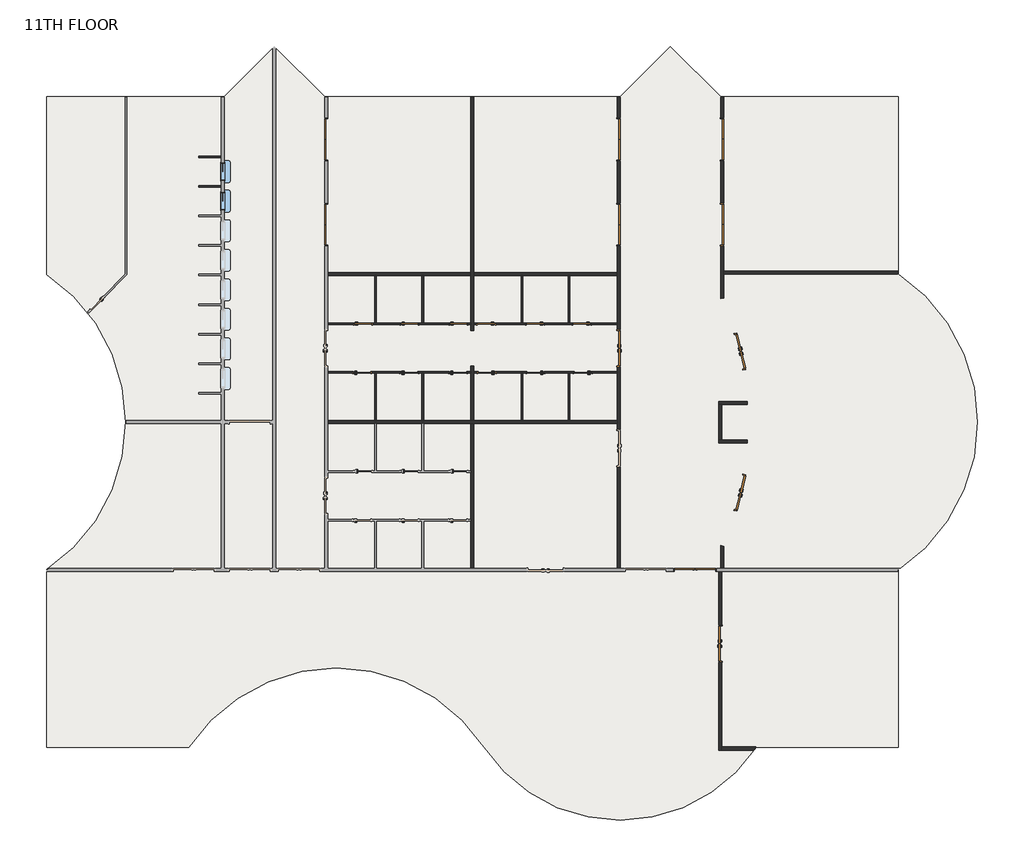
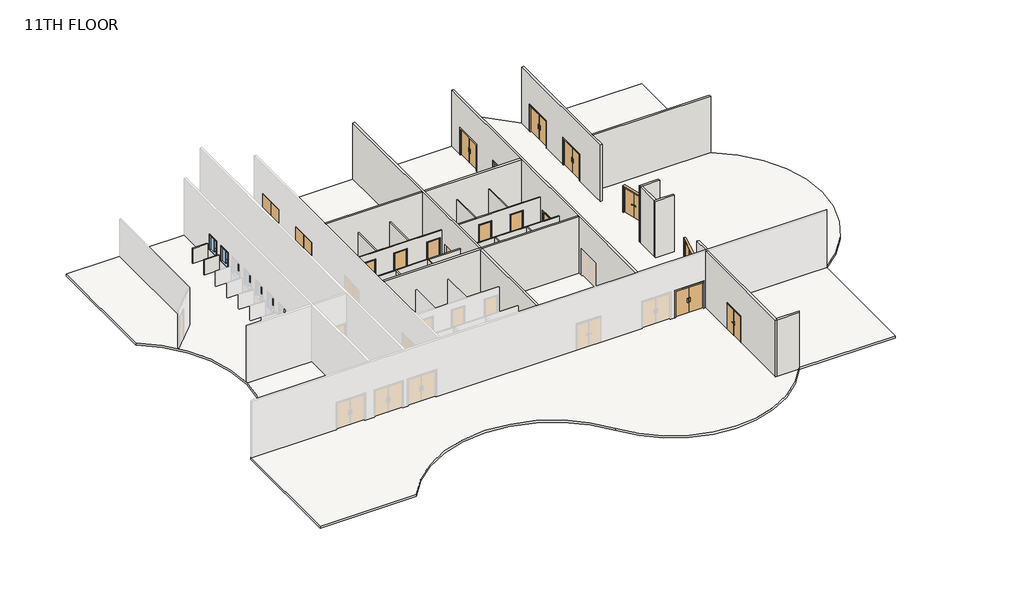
# One storey, part 2 of 2: 26 walls, 23 doors, 2 windows, 1 slab.
"""IFC4 building model written with IfcOpenShell, lengths in millimetres."""

from ifc_helpers import new_model, si_unit, point, frame, frame_2d, origin, place, context, project, spatial, polyline, circle_curve, trimmed, segment, composite_curve, outline, extrude, faceted_brep, transform, mapped, element, save
from ifc_brep_helpers import plane_surface, cylinder_surface, advanced_brep
from components import door_2f250f70, door_df8e76c5, door_0b13e4d9, door_b3a27a16, door_979b1b8c, door_f8b587be, pass_thru_4x3_19d81059

model = new_model("IFC4")

# Units and contexts
model_context = context("Model", 3, world=origin())
ifc_project = project(units=[si_unit("LENGTHUNIT", "METRE", prefix="MILLI")], contexts=[model_context])

# Site, building, storey
site = spatial("IfcSite", under=ifc_project)
building = spatial("IfcBuilding", under=site)
storey = spatial("IfcBuildingStorey", under=building, Name="11TH FLOOR", Elevation=50292.0)

# Doors
placement = place(None, origin())
door_shape = door_2f250f70(model_context)
element("IfcDoor", 1, ObjectType="Door-Passage-Double-Flush : 72\" x 82\"", at=placement, inside=storey, context=model_context, shape_type="MappedRepresentation", body=[
    mapped(door_shape, transform((35885.2621514, 20561.4429091, 50292.0), x_axis=(0.23975975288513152, -0.9708322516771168, 0.0), y_axis=(0.9708322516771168, 0.23975975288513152, 0.0), z_axis=(0.0, 0.0, 1.0))),
])
element("IfcDoor", 2, ObjectType="Door-Passage-Double-Flush : 72\" x 82\"", at=placement, inside=storey, context=model_context, shape_type="MappedRepresentation", body=[
    mapped(door_shape, transform((34887.5089577, 5494.3375, 50292.0), x_axis=(0.0, 1.0, 0.0), y_axis=(-1.0, 0.0, 0.0), z_axis=(0.0, 0.0, 1.0))),
])
door_2_shape = door_df8e76c5(model_context)
element("IfcDoor", 3, ObjectType="Door-Passage-Double-Flush : 72\" x 82\"", at=placement, inside=storey, context=model_context, shape_type="MappedRepresentation", body=[
    mapped(door_2_shape, transform((35886.7385063, 13277.3403388, 50292.0), x_axis=(0.23936619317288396, 0.9709293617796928, 0.0), y_axis=(-0.9709293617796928, 0.23936619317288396, 0.0), z_axis=(0.0, 0.0, 1.0))),
])
element("IfcDoor", 4, ObjectType="Door-Passage-Double-Flush : 72\" x 82\"", at=placement, inside=storey, context=model_context, shape_type="MappedRepresentation", body=[
    mapped(door_2_shape, transform((29628.0650257, 20729.575, 50292.0), x_axis=(0.0, 1.0, 0.0), y_axis=(-1.0, 0.0, 0.0), z_axis=(0.0, 0.0, 1.0))),
])
door_3_shape = door_0b13e4d9(model_context)
element("IfcDoor", 5, ObjectType="Door-Passage-Double-Flush-Dbl_Acting : 84\" x 84\"", at=placement, inside=storey, context=model_context, shape_type="MappedRepresentation", body=[
    mapped(door_3_shape, transform((33564.0300515, 9293.225, 50292.0), x_axis=(-1.0, 0.0, 0.0), y_axis=(0.0, -1.0, 0.0), z_axis=(0.0, 0.0, 1.0))),
])
element("IfcDoor", 6, ObjectType="Door-Passage-Double-Flush-Dbl_Acting : 84\" x 84\"", at=placement, inside=storey, context=model_context, shape_type="MappedRepresentation", body=[
    mapped(door_3_shape, transform((29628.0650257, 31499.175, 50292.0), x_axis=(0.0, 1.0, 0.0), y_axis=(-1.0, 0.0, 0.0), z_axis=(0.0, 0.0, 1.0))),
])
element("IfcDoor", 7, ObjectType="Door-Passage-Double-Flush-Dbl_Acting : 84\" x 84\"", at=placement, inside=storey, context=model_context, shape_type="MappedRepresentation", body=[
    mapped(door_3_shape, transform((29628.0650257, 27101.8, 50292.0), x_axis=(0.0, 1.0, 0.0), y_axis=(-1.0, 0.0, 0.0), z_axis=(0.0, 0.0, 1.0))),
])
door_4_shape = door_b3a27a16(model_context)
element("IfcDoor", 8, ObjectType="Door-Passage-Double-Flush-Dbl_Acting : 84\" x 84\"", at=placement, inside=storey, context=model_context, shape_type="MappedRepresentation", body=[
    mapped(door_4_shape, transform((14556.3400257, 31499.175, 50292.0), x_axis=(0.0, 1.0, 0.0), y_axis=(-1.0, 0.0, 0.0), z_axis=(0.0, 0.0, 1.0))),
])
element("IfcDoor", 9, ObjectType="Door-Passage-Double-Flush-Dbl_Acting : 84\" x 84\"", at=placement, inside=storey, context=model_context, shape_type="MappedRepresentation", body=[
    mapped(door_4_shape, transform((14556.3400257, 27101.8, 50292.0), x_axis=(0.0, 1.0, 0.0), y_axis=(-1.0, 0.0, 0.0), z_axis=(0.0, 0.0, 1.0))),
])
element("IfcDoor", 10, ObjectType="Door-Passage-Double-Flush-Dbl_Acting : 84\" x 84\"", at=placement, inside=storey, context=model_context, shape_type="MappedRepresentation", body=[
    mapped(door_4_shape, transform((34956.2675515, 31499.175, 50292.0), x_axis=(0.0, -1.0, 0.0), y_axis=(1.0, 0.0, 0.0), z_axis=(0.0, 0.0, 1.0))),
])
element("IfcDoor", 11, ObjectType="Door-Passage-Double-Flush-Dbl_Acting : 84\" x 84\"", at=placement, inside=storey, context=model_context, shape_type="MappedRepresentation", body=[
    mapped(door_4_shape, transform((34956.2675515, 27101.8, 50292.0), x_axis=(0.0, -1.0, 0.0), y_axis=(1.0, 0.0, 0.0), z_axis=(0.0, 0.0, 1.0))),
])
door_5_shape = door_979b1b8c(model_context)
element("IfcDoor", 12, ObjectType="Door-Passage-Single-Flush : 36\" x 96\"", at=placement, inside=storey, context=model_context, shape_type="MappedRepresentation", body=[
    mapped(door_5_shape, transform((16456.5775257, 21977.35, 50292.0), x_axis=(1.0, 0.0, 0.0), y_axis=(0.0, 1.0, 0.0), z_axis=(0.0, 0.0, 1.0))),
])
element("IfcDoor", 13, ObjectType="Door-Passage-Single-Flush : 36\" x 96\"", at=placement, inside=storey, context=model_context, shape_type="MappedRepresentation", body=[
    mapped(door_5_shape, transform((18855.2900257, 21977.35, 50292.0), x_axis=(1.0, 0.0, 0.0), y_axis=(0.0, 1.0, 0.0), z_axis=(0.0, 0.0, 1.0))),
])
element("IfcDoor", 14, ObjectType="Door-Passage-Single-Flush : 36\" x 96\"", at=placement, inside=storey, context=model_context, shape_type="MappedRepresentation", body=[
    mapped(door_5_shape, transform((21373.0650257, 21977.35, 50292.0), x_axis=(1.0, 0.0, 0.0), y_axis=(0.0, 1.0, 0.0), z_axis=(0.0, 0.0, 1.0))),
])
element("IfcDoor", 15, ObjectType="Door-Passage-Single-Flush : 36\" x 96\"", at=placement, inside=storey, context=model_context, shape_type="MappedRepresentation", body=[
    mapped(door_5_shape, transform((27778.6275257, 19481.8, 50292.0), x_axis=(-1.0, 0.0, 0.0), y_axis=(0.0, -1.0, 0.0), z_axis=(0.0, 0.0, 1.0))),
])
element("IfcDoor", 16, ObjectType="Door-Passage-Single-Flush : 36\" x 96\"", at=placement, inside=storey, context=model_context, shape_type="MappedRepresentation", body=[
    mapped(door_5_shape, transform((25348.1650257, 19481.8, 50292.0), x_axis=(-1.0, 0.0, 0.0), y_axis=(0.0, -1.0, 0.0), z_axis=(0.0, 0.0, 1.0))),
])
element("IfcDoor", 17, ObjectType="Door-Passage-Single-Flush : 36\" x 96\"", at=placement, inside=storey, context=model_context, shape_type="MappedRepresentation", body=[
    mapped(door_5_shape, transform((22830.3900257, 19481.8, 50292.0), x_axis=(-1.0, 0.0, 0.0), y_axis=(0.0, -1.0, 0.0), z_axis=(0.0, 0.0, 1.0))),
])
door_6_shape = door_f8b587be(model_context)
element("IfcDoor", 18, ObjectType="Door-Passage-Single-Flush : 36\" x 96\"", at=placement, inside=storey, context=model_context, shape_type="MappedRepresentation", body=[
    mapped(door_6_shape, transform((16405.7775257, 19481.8, 50292.0), x_axis=(1.0, 0.0, 0.0), y_axis=(0.0, 1.0, 0.0), z_axis=(0.0, 0.0, 1.0))),
])
element("IfcDoor", 19, ObjectType="Door-Passage-Single-Flush : 36\" x 96\"", at=placement, inside=storey, context=model_context, shape_type="MappedRepresentation", body=[
    mapped(door_6_shape, transform((18836.2400257, 19481.8, 50292.0), x_axis=(1.0, 0.0, 0.0), y_axis=(0.0, 1.0, 0.0), z_axis=(0.0, 0.0, 1.0))),
])
element("IfcDoor", 20, ObjectType="Door-Passage-Single-Flush : 36\" x 96\"", at=placement, inside=storey, context=model_context, shape_type="MappedRepresentation", body=[
    mapped(door_6_shape, transform((21354.0150257, 19481.8, 50292.0), x_axis=(1.0, 0.0, 0.0), y_axis=(0.0, 1.0, 0.0), z_axis=(0.0, 0.0, 1.0))),
])
element("IfcDoor", 21, ObjectType="Door-Passage-Single-Flush : 36\" x 96\"", at=placement, inside=storey, context=model_context, shape_type="MappedRepresentation", body=[
    mapped(door_6_shape, transform((27727.8275257, 21977.35, 50292.0), x_axis=(-1.0, 0.0, 0.0), y_axis=(0.0, -1.0, 0.0), z_axis=(0.0, 0.0, 1.0))),
])
element("IfcDoor", 22, ObjectType="Door-Passage-Single-Flush : 36\" x 96\"", at=placement, inside=storey, context=model_context, shape_type="MappedRepresentation", body=[
    mapped(door_6_shape, transform((25329.1150257, 21977.35, 50292.0), x_axis=(-1.0, 0.0, 0.0), y_axis=(0.0, -1.0, 0.0), z_axis=(0.0, 0.0, 1.0))),
])
element("IfcDoor", 23, ObjectType="Door-Passage-Single-Flush : 36\" x 96\"", at=placement, inside=storey, context=model_context, shape_type="MappedRepresentation", body=[
    mapped(door_6_shape, transform((22811.3400257, 21977.35, 50292.0), x_axis=(-1.0, 0.0, 0.0), y_axis=(0.0, -1.0, 0.0), z_axis=(0.0, 0.0, 1.0))),
])

# Slab
element("IfcSlab", 24, ObjectType="ARCHITECTURAL FINISH FLOOR", at=placement, inside=storey, context=model_context, shape_type="SweptSolid", body=[
    extrude(outline(composite_curve([segment(polyline([(9294.3144878, 33696.275), (11885.8887629, 36287.8492751), (14477.463038, 33696.275), (29706.9420135, 33696.275), (32298.5162886, 36287.8492751), (34890.0905637, 33696.275), (44041.5300515, 33696.275), (44041.5300515, 24546.3877275)]), True, "CONTINUOUS"), segment(trimmed(circle_curve(frame_2d((38974.293871, 16919.575)), 9156.7), [point((44041.5300515, 24546.3877275))], [point((44041.5300515, 9292.7622725))], False, "CARTESIAN"), True, "CONTINUOUS"), segment(polyline([(44041.5300515, 9292.7622725), (44041.5300515, 142.875), (36720.4425102, 142.875)]), True, "CONTINUOUS"), segment(trimmed(circle_curve(frame_2d((29712.2025257, 4799.7966199)), 8414.4130309), [point((36720.4425102, 142.875))], [point((22700.1916667, 148.5548109))], False, "CARTESIAN"), True, "CONTINUOUS"), segment(trimmed(circle_curve(frame_2d((15090.775, -4898.9611805)), 9131.3), [point((22700.1916667, 148.5548109))], [point((7477.593824, 142.875))], True, "CARTESIAN"), True, "CONTINUOUS"), segment(polyline([(7477.593824, 142.875), (142.875, 142.875), (142.875, 9306.393824)]), True, "CONTINUOUS"), segment(trimmed(circle_curve(frame_2d((-4898.9611805, 16919.575)), 9131.3), [point((142.875, 9306.393824))], [point((142.875, 24532.756176))], True, "CARTESIAN"), True, "CONTINUOUS"), segment(polyline([(142.875, 24532.756176), (142.875, 33696.275), (9294.3144878, 33696.275)]), True, "CONTINUOUS")], self_intersect=False)), frame((0.0, 0.0, 50139.6), z_axis=(0.0, 0.0, 1.0), x_axis=(1.0, 0.0, 0.0)), (0.0, 0.0, 1.0), 171.45),
])

# Walls
element("IfcWall", 25, ObjectType="SYR_INT_ONE_HOUR", at=placement, inside=storey, context=model_context, shape_type="SweptSolid", body=[
    extrude(outline(polyline([(17066.1775257, 22023.3875), (17066.1775257, 24461.7875), (17145.5525257, 24461.7875), (17145.5525257, 22023.3875), (17066.1775257, 22023.3875)])), frame((0.0, 0.0, 50292.0), z_axis=(0.0, 0.0, 1.0), x_axis=(1.0, 0.0, 0.0)), (0.0, 0.0, 1.0), 3048.0),
])
element("IfcWall", 26, ObjectType="SYR_INT_ONE_HOUR", at=placement, inside=storey, context=model_context, shape_type="SweptSolid", body=[
    extrude(outline(polyline([(19576.0150257, 19435.7625), (19576.0150257, 16997.3625), (19496.6400257, 16997.3625), (19496.6400257, 19435.7625), (19576.0150257, 19435.7625)])), frame((0.0, 0.0, 50292.0), z_axis=(0.0, 0.0, 1.0), x_axis=(1.0, 0.0, 0.0)), (0.0, 0.0, 1.0), 3048.0),
])
element("IfcWall", 27, ObjectType="SYR_INT_ONE_HOUR", at=placement, inside=storey, context=model_context, shape_type="Brep", body=[
    faceted_brep([(14627.7775257, 22023.3875, 53340.0), (17066.1775257, 22023.3875, 53340.0), (17145.5525257, 22023.3875, 53340.0), (19496.6400257, 22023.3875, 53340.0), (19576.0150257, 22023.3875, 53340.0), (22014.4150257, 22023.3875, 53340.0), (22014.4150257, 22023.3875, 50292.0), (21862.0150257, 22023.3875, 50292.0), (21862.0150257, 22023.3875, 52762.15), (20884.1150257, 22023.3875, 52762.15), (20884.1150257, 22023.3875, 50292.0), (19576.0150257, 22023.3875, 50292.0), (19496.6400257, 22023.3875, 50292.0), (19344.2400257, 22023.3875, 50292.0), (19344.2400257, 22023.3875, 52762.15), (18366.3400257, 22023.3875, 52762.15), (18366.3400257, 22023.3875, 50292.0), (17145.5525257, 22023.3875, 50292.0), (17066.1775257, 22023.3875, 50292.0), (16945.5275257, 22023.3875, 50292.0), (16945.5275257, 22023.3875, 52762.15), (15967.6275257, 22023.3875, 52762.15), (15967.6275257, 22023.3875, 50292.0), (14627.7775257, 22023.3875, 50292.0), (22014.4150257, 21944.0125, 53340.0), (14627.7775257, 21944.0125, 53340.0), (14627.7775257, 21944.0125, 50292.0), (15967.6275257, 21944.0125, 50292.0), (15967.6275257, 21944.0125, 52762.15), (16945.5275257, 21944.0125, 52762.15), (16945.5275257, 21944.0125, 50292.0), (18366.3400257, 21944.0125, 50292.0), (18366.3400257, 21944.0125, 52762.15), (19344.2400257, 21944.0125, 52762.15), (19344.2400257, 21944.0125, 50292.0), (20884.1150257, 21944.0125, 50292.0), (20884.1150257, 21944.0125, 52762.15), (21862.0150257, 21944.0125, 52762.15), (21862.0150257, 21944.0125, 50292.0), (22014.4150257, 21944.0125, 50292.0)], [[[0, 1, 2, 3, 4, 5, 6, 7, 8, 9, 10, 11, 12, 13, 14, 15, 16, 17, 18, 19, 20, 21, 22, 23]], [[24, 25, 26, 27, 28, 29, 30, 31, 32, 33, 34, 35, 36, 37, 38, 39]], [[23, 22, 27, 26]], [[30, 19, 18, 17, 16, 31]], [[34, 13, 12, 11, 10, 35]], [[6, 39, 38, 7]], [[5, 4, 3, 2, 1, 0, 25, 24]], [[29, 20, 19, 30]], [[20, 29, 28, 21]], [[21, 28, 27, 22]], [[14, 13, 34, 33]], [[15, 14, 33, 32]], [[16, 15, 32, 31]], [[37, 8, 7, 38]], [[8, 37, 36, 9]], [[9, 36, 35, 10]], [[0, 23, 26, 25]], [[6, 5, 24, 39]]]),
])
element("IfcWall", 28, ObjectType="SYR_INT_ONE_HOUR", at=placement, inside=storey, context=model_context, shape_type="Brep", body=[
    faceted_brep([(14627.7775257, 19515.1375, 53340.0), (22014.4150257, 19515.1375, 53340.0), (22014.4150257, 19515.1375, 50292.0), (21842.9650257, 19515.1375, 50292.0), (21842.9650257, 19515.1375, 52762.15), (20865.0650257, 19515.1375, 52762.15), (20865.0650257, 19515.1375, 50292.0), (19325.1900257, 19515.1375, 50292.0), (19325.1900257, 19515.1375, 52762.15), (18347.2900257, 19515.1375, 52762.15), (18347.2900257, 19515.1375, 50292.0), (16894.7275257, 19515.1375, 50292.0), (16894.7275257, 19515.1375, 52762.15), (15916.8275257, 19515.1375, 52762.15), (15916.8275257, 19515.1375, 50292.0), (14627.7775257, 19515.1375, 50292.0), (22014.4150257, 19435.7625, 53340.0), (19576.0150257, 19435.7625, 53340.0), (19496.6400257, 19435.7625, 53340.0), (17145.5525257, 19435.7625, 53340.0), (17066.1775257, 19435.7625, 53340.0), (14627.7775257, 19435.7625, 53340.0), (14627.7775257, 19435.7625, 50292.0), (15916.8275257, 19435.7625, 50292.0), (15916.8275257, 19435.7625, 52762.15), (16894.7275257, 19435.7625, 52762.15), (16894.7275257, 19435.7625, 50292.0), (17066.1775257, 19435.7625, 50292.0), (17145.5525257, 19435.7625, 50292.0), (18347.2900257, 19435.7625, 50292.0), (18347.2900257, 19435.7625, 52762.15), (19325.1900257, 19435.7625, 52762.15), (19325.1900257, 19435.7625, 50292.0), (19496.6400257, 19435.7625, 50292.0), (19576.0150257, 19435.7625, 50292.0), (20865.0650257, 19435.7625, 50292.0), (20865.0650257, 19435.7625, 52762.15), (21842.9650257, 19435.7625, 52762.15), (21842.9650257, 19435.7625, 50292.0), (22014.4150257, 19435.7625, 50292.0)], [[[0, 1, 2, 3, 4, 5, 6, 7, 8, 9, 10, 11, 12, 13, 14, 15]], [[16, 17, 18, 19, 20, 21, 22, 23, 24, 25, 26, 27, 28, 29, 30, 31, 32, 33, 34, 35, 36, 37, 38, 39]], [[15, 14, 23, 22]], [[26, 11, 10, 29, 28, 27]], [[32, 7, 6, 35, 34, 33]], [[2, 39, 38, 3]], [[1, 0, 21, 20, 19, 18, 17, 16]], [[25, 12, 11, 26]], [[12, 25, 24, 13]], [[13, 24, 23, 14]], [[31, 8, 7, 32]], [[8, 31, 30, 9]], [[9, 30, 29, 10]], [[37, 4, 3, 38]], [[4, 37, 36, 5]], [[5, 36, 35, 6]], [[0, 15, 22, 21]], [[2, 1, 16, 39]]]),
])
element("IfcWall", 29, ObjectType="SYR_INT_ONE_HOUR", at=placement, inside=storey, context=model_context, shape_type="SweptSolid", body=[
    extrude(outline(polyline([(17066.1775257, 16997.3625), (17066.1775257, 19435.7625), (17145.5525257, 19435.7625), (17145.5525257, 16997.3625), (17066.1775257, 16997.3625)])), frame((0.0, 0.0, 50292.0), z_axis=(0.0, 0.0, 1.0), x_axis=(1.0, 0.0, 0.0)), (0.0, 0.0, 1.0), 3048.0),
])
element("IfcWall", 30, ObjectType="SYR_INT_ONE_HOUR", at=placement, inside=storey, context=model_context, shape_type="SweptSolid", body=[
    extrude(outline(polyline([(19576.0150257, 24461.7875), (19576.0150257, 22023.3875), (19496.6400257, 22023.3875), (19496.6400257, 24461.7875), (19576.0150257, 24461.7875)])), frame((0.0, 0.0, 50292.0), z_axis=(0.0, 0.0, 1.0), x_axis=(1.0, 0.0, 0.0)), (0.0, 0.0, 1.0), 3048.0),
])
element("IfcWall", 31, ObjectType="SYR_INT_ONE_HOUR", at=placement, inside=storey, context=model_context, shape_type="SweptSolid", body=[
    extrude(outline(polyline([(7979.2710938, 29111.575), (9144.0, 29111.575), (9144.0, 29032.2), (7979.2710938, 29032.2), (7979.2710938, 29111.575)])), frame((0.0, 0.0, 50292.0), z_axis=(0.0, 0.0, 1.0), x_axis=(1.0, 0.0, 0.0)), (0.0, 0.0, 1.0), 1219.2),
])
element("IfcWall", 32, ObjectType="SYR_INT_ONE_HOUR", at=placement, inside=storey, context=model_context, shape_type="SweptSolid", body=[
    extrude(outline(polyline([(7979.2710938, 30635.575), (9144.0, 30635.575), (9144.0, 30556.2), (7979.2710938, 30556.2), (7979.2710938, 30635.575)])), frame((0.0, 0.0, 50292.0), z_axis=(0.0, 0.0, 1.0), x_axis=(1.0, 0.0, 0.0)), (0.0, 0.0, 1.0), 1219.2),
])
element("IfcWall", 33, ObjectType="SYR_INT_ONE_HOUR", at=placement, inside=storey, context=model_context, shape_type="SweptSolid", body=[
    extrude(outline(polyline([(27038.8525257, 22023.3875), (27038.8525257, 24461.7875), (27118.2275257, 24461.7875), (27118.2275257, 22023.3875), (27038.8525257, 22023.3875)])), frame((0.0, 0.0, 50292.0), z_axis=(0.0, 0.0, 1.0), x_axis=(1.0, 0.0, 0.0)), (0.0, 0.0, 1.0), 3048.0),
])
element("IfcWall", 34, ObjectType="SYR_INT_ONE_HOUR", at=placement, inside=storey, context=model_context, shape_type="SweptSolid", body=[
    extrude(outline(polyline([(24687.7650257, 19435.7625), (24687.7650257, 16997.3625), (24608.3900257, 16997.3625), (24608.3900257, 19435.7625), (24687.7650257, 19435.7625)])), frame((0.0, 0.0, 50292.0), z_axis=(0.0, 0.0, 1.0), x_axis=(1.0, 0.0, 0.0)), (0.0, 0.0, 1.0), 3048.0),
])
element("IfcWall", 35, ObjectType="SYR_INT_ONE_HOUR", at=placement, inside=storey, context=model_context, shape_type="Brep", body=[
    faceted_brep([(29556.6275257, 21944.0125, 53340.0), (22169.9900257, 21944.0125, 53340.0), (22169.9900257, 21944.0125, 50292.0), (22322.3900257, 21944.0125, 50292.0), (22322.3900257, 21944.0125, 52762.15), (23300.2900257, 21944.0125, 52762.15), (23300.2900257, 21944.0125, 50292.0), (24840.1650257, 21944.0125, 50292.0), (24840.1650257, 21944.0125, 52762.15), (25818.0650257, 21944.0125, 52762.15), (25818.0650257, 21944.0125, 50292.0), (27238.8775257, 21944.0125, 50292.0), (27238.8775257, 21944.0125, 52762.15), (28216.7775257, 21944.0125, 52762.15), (28216.7775257, 21944.0125, 50292.0), (29556.6275257, 21944.0125, 50292.0), (22169.9900257, 22023.3875, 53340.0), (24608.3900257, 22023.3875, 53340.0), (24687.7650257, 22023.3875, 53340.0), (27038.8525257, 22023.3875, 53340.0), (27118.2275257, 22023.3875, 53340.0), (29556.6275257, 22023.3875, 53340.0), (29556.6275257, 22023.3875, 50292.0), (28216.7775257, 22023.3875, 50292.0), (28216.7775257, 22023.3875, 52762.15), (27238.8775257, 22023.3875, 52762.15), (27238.8775257, 22023.3875, 50292.0), (27118.2275257, 22023.3875, 50292.0), (27038.8525257, 22023.3875, 50292.0), (25818.0650257, 22023.3875, 50292.0), (25818.0650257, 22023.3875, 52762.15), (24840.1650257, 22023.3875, 52762.15), (24840.1650257, 22023.3875, 50292.0), (24687.7650257, 22023.3875, 50292.0), (24608.3900257, 22023.3875, 50292.0), (23300.2900257, 22023.3875, 50292.0), (23300.2900257, 22023.3875, 52762.15), (22322.3900257, 22023.3875, 52762.15), (22322.3900257, 22023.3875, 50292.0), (22169.9900257, 22023.3875, 50292.0)], [[[0, 1, 2, 3, 4, 5, 6, 7, 8, 9, 10, 11, 12, 13, 14, 15]], [[16, 17, 18, 19, 20, 21, 22, 23, 24, 25, 26, 27, 28, 29, 30, 31, 32, 33, 34, 35, 36, 37, 38, 39]], [[15, 14, 23, 22]], [[26, 11, 10, 29, 28, 27]], [[32, 7, 6, 35, 34, 33]], [[2, 39, 38, 3]], [[1, 0, 21, 20, 19, 18, 17, 16]], [[25, 12, 11, 26]], [[12, 25, 24, 13]], [[13, 24, 23, 14]], [[8, 7, 32, 31]], [[9, 8, 31, 30]], [[10, 9, 30, 29]], [[37, 4, 3, 38]], [[4, 37, 36, 5]], [[5, 36, 35, 6]], [[0, 15, 22, 21]], [[2, 1, 16, 39]]]),
])
element("IfcWall", 36, ObjectType="SYR_INT_ONE_HOUR", at=placement, inside=storey, context=model_context, shape_type="Brep", body=[
    faceted_brep([(29556.6275257, 19435.7625, 53340.0), (27118.2275257, 19435.7625, 53340.0), (27038.8525257, 19435.7625, 53340.0), (24687.7650257, 19435.7625, 53340.0), (24608.3900257, 19435.7625, 53340.0), (22169.9900257, 19435.7625, 53340.0), (22169.9900257, 19435.7625, 50292.0), (22341.4400257, 19435.7625, 50292.0), (22341.4400257, 19435.7625, 52762.15), (23319.3400257, 19435.7625, 52762.15), (23319.3400257, 19435.7625, 50292.0), (24608.3900257, 19435.7625, 50292.0), (24687.7650257, 19435.7625, 50292.0), (24859.2150257, 19435.7625, 50292.0), (24859.2150257, 19435.7625, 52762.15), (25837.1150257, 19435.7625, 52762.15), (25837.1150257, 19435.7625, 50292.0), (27038.8525257, 19435.7625, 50292.0), (27118.2275257, 19435.7625, 50292.0), (27289.6775257, 19435.7625, 50292.0), (27289.6775257, 19435.7625, 52762.15), (28267.5775257, 19435.7625, 52762.15), (28267.5775257, 19435.7625, 50292.0), (29556.6275257, 19435.7625, 50292.0), (22169.9900257, 19515.1375, 53340.0), (29556.6275257, 19515.1375, 53340.0), (29556.6275257, 19515.1375, 50292.0), (28267.5775257, 19515.1375, 50292.0), (28267.5775257, 19515.1375, 52762.15), (27289.6775257, 19515.1375, 52762.15), (27289.6775257, 19515.1375, 50292.0), (25837.1150257, 19515.1375, 50292.0), (25837.1150257, 19515.1375, 52762.15), (24859.2150257, 19515.1375, 52762.15), (24859.2150257, 19515.1375, 50292.0), (23319.3400257, 19515.1375, 50292.0), (23319.3400257, 19515.1375, 52762.15), (22341.4400257, 19515.1375, 52762.15), (22341.4400257, 19515.1375, 50292.0), (22169.9900257, 19515.1375, 50292.0)], [[[0, 1, 2, 3, 4, 5, 6, 7, 8, 9, 10, 11, 12, 13, 14, 15, 16, 17, 18, 19, 20, 21, 22, 23]], [[24, 25, 26, 27, 28, 29, 30, 31, 32, 33, 34, 35, 36, 37, 38, 39]], [[23, 22, 27, 26]], [[30, 19, 18, 17, 16, 31]], [[34, 13, 12, 11, 10, 35]], [[6, 39, 38, 7]], [[5, 4, 3, 2, 1, 0, 25, 24]], [[29, 20, 19, 30]], [[20, 29, 28, 21]], [[21, 28, 27, 22]], [[33, 14, 13, 34]], [[14, 33, 32, 15]], [[15, 32, 31, 16]], [[37, 8, 7, 38]], [[8, 37, 36, 9]], [[9, 36, 35, 10]], [[0, 23, 26, 25]], [[6, 5, 24, 39]]]),
])
element("IfcWall", 37, ObjectType="SYR_INT_ONE_HOUR", at=placement, inside=storey, context=model_context, shape_type="SweptSolid", body=[
    extrude(outline(polyline([(27038.8525257, 16997.3625), (27038.8525257, 19435.7625), (27118.2275257, 19435.7625), (27118.2275257, 16997.3625), (27038.8525257, 16997.3625)])), frame((0.0, 0.0, 50292.0), z_axis=(0.0, 0.0, 1.0), x_axis=(1.0, 0.0, 0.0)), (0.0, 0.0, 1.0), 3048.0),
])
element("IfcWall", 38, ObjectType="SYR_INT_ONE_HOUR", at=placement, inside=storey, context=model_context, shape_type="SweptSolid", body=[
    extrude(outline(polyline([(24687.7650257, 24461.7875), (24687.7650257, 22023.3875), (24608.3900257, 22023.3875), (24608.3900257, 24461.7875), (24687.7650257, 24461.7875)])), frame((0.0, 0.0, 50292.0), z_axis=(0.0, 0.0, 1.0), x_axis=(1.0, 0.0, 0.0)), (0.0, 0.0, 1.0), 3048.0),
])
element("IfcWall", 39, ObjectType="SYR_INT_TWO_HOUR", at=placement, inside=storey, context=model_context, shape_type="Brep", body=[
    faceted_brep([(34803.3714577, 0.0, 54864.0), (34803.3714577, 9221.7875, 54864.0), (34803.3714577, 9221.7875, 50292.0), (34803.3714577, 6459.5375, 50292.0), (34803.3714577, 6459.5375, 52476.4), (34803.3714577, 4529.1375, 52476.4), (34803.3714577, 4529.1375, 50292.0), (34803.3714577, 0.0, 50292.0), (34958.9464577, 9221.7875, 54864.0), (34958.9464577, 155.575, 54864.0), (34958.9464577, 0.0, 54864.0), (34958.9464577, 0.0, 50292.0), (34958.9464577, 155.575, 50292.0), (34958.9464577, 4529.1375, 50292.0), (34958.9464577, 4529.1375, 52476.4), (34958.9464577, 6459.5375, 52476.4), (34958.9464577, 6459.5375, 50292.0), (34958.9464577, 9221.7875, 50292.0)], [[[0, 1, 2, 3, 4, 5, 6, 7]], [[8, 9, 10, 11, 12, 13, 14, 15, 16, 17]], [[2, 17, 16, 3]], [[11, 7, 6, 13, 12]], [[1, 0, 10, 9, 8]], [[2, 1, 8, 17]], [[0, 7, 11, 10]], [[15, 4, 3, 16]], [[4, 15, 14, 5]], [[5, 14, 13, 6]]]),
])
element("IfcWall", 40, ObjectType="SYR_INT_TWO_HOUR", at=placement, inside=storey, context=model_context, shape_type="SweptSolid", body=[
    extrude(outline(composite_curve([segment(polyline([(36607.9065696, 0.0), (34958.9464577, 0.0), (34958.9464577, 155.575), (36713.6300515, 155.575)]), True, "CONTINUOUS"), segment(trimmed(circle_curve(frame_2d((29712.2025257, 4799.7966199)), 8401.7130309), [point((36713.6300515, 155.575))], [point((36607.9065696, 0.0))], False, "CARTESIAN"), True, "CONTINUOUS")], self_intersect=False)), frame((0.0, 0.0, 50292.0), z_axis=(0.0, 0.0, 1.0), x_axis=(1.0, 0.0, 0.0)), (0.0, 0.0, 1.0), 4572.0),
])
element("IfcWall", 41, ObjectType="SYR_INT_TWO_HOUR", at=placement, inside=storey, context=model_context, shape_type="Brep", body=[
    faceted_brep([(29556.6275257, 9377.3625, 54864.0), (29556.6275257, 16841.7875, 54864.0), (29556.6275257, 16997.3625, 54864.0), (29556.6275257, 24461.7875, 54864.0), (29556.6275257, 24617.3625, 54864.0), (29556.6275257, 33683.575, 54864.0), (29556.6275257, 33683.575, 50292.0), (29556.6275257, 32616.775, 50292.0), (29556.6275257, 32616.775, 52527.2), (29556.6275257, 30381.575, 52527.2), (29556.6275257, 30381.575, 50292.0), (29556.6275257, 28219.4, 50292.0), (29556.6275257, 28219.4, 52527.2), (29556.6275257, 25984.2, 52527.2), (29556.6275257, 25984.2, 50292.0), (29556.6275257, 24617.3625, 50292.0), (29556.6275257, 24461.7875, 50292.0), (29556.6275257, 22023.3875, 50292.0), (29556.6275257, 21944.0125, 50292.0), (29556.6275257, 21694.775, 50292.0), (29556.6275257, 21694.775, 52476.4), (29556.6275257, 19764.375, 52476.4), (29556.6275257, 19764.375, 50292.0), (29556.6275257, 19515.1375, 50292.0), (29556.6275257, 19435.7625, 50292.0), (29556.6275257, 16997.3625, 50292.0), (29556.6275257, 16841.7875, 50292.0), (29556.6275257, 16536.9875, 50292.0), (29556.6275257, 16536.9875, 52476.4), (29556.6275257, 14606.5875, 52476.4), (29556.6275257, 14606.5875, 50292.0), (29556.6275257, 9377.3625, 50292.0), (29712.2025257, 33683.575, 54864.0), (29712.2025257, 9377.3625, 54864.0), (29712.2025257, 9377.3625, 50292.0), (29712.2025257, 14606.5875, 50292.0), (29712.2025257, 14606.5875, 52476.4), (29712.2025257, 16536.9875, 52476.4), (29712.2025257, 16536.9875, 50292.0), (29712.2025257, 19764.375, 50292.0), (29712.2025257, 19764.375, 52476.4), (29712.2025257, 21694.775, 52476.4), (29712.2025257, 21694.775, 50292.0), (29712.2025257, 25984.2, 50292.0), (29712.2025257, 25984.2, 52527.2), (29712.2025257, 28219.4, 52527.2), (29712.2025257, 28219.4, 50292.0), (29712.2025257, 30381.575, 50292.0), (29712.2025257, 30381.575, 52527.2), (29712.2025257, 32616.775, 52527.2), (29712.2025257, 32616.775, 50292.0), (29712.2025257, 33683.575, 50292.0)], [[[0, 1, 2, 3, 4, 5, 6, 7, 8, 9, 10, 11, 12, 13, 14, 15, 16, 17, 18, 19, 20, 21, 22, 23, 24, 25, 26, 27, 28, 29, 30, 31]], [[32, 33, 34, 35, 36, 37, 38, 39, 40, 41, 42, 43, 44, 45, 46, 47, 48, 49, 50, 51]], [[34, 31, 30, 35]], [[42, 19, 18, 17, 16, 15, 14, 43]], [[22, 39, 38, 27, 26, 25, 24, 23]], [[46, 11, 10, 47]], [[7, 6, 51, 50]], [[5, 4, 3, 2, 1, 0, 33, 32]], [[0, 31, 34, 33]], [[41, 20, 19, 42]], [[20, 41, 40, 21]], [[21, 40, 39, 22]], [[45, 12, 11, 46]], [[12, 45, 44, 13]], [[13, 44, 43, 14]], [[49, 8, 7, 50]], [[8, 49, 48, 9]], [[9, 48, 47, 10]], [[29, 36, 35, 30]], [[36, 29, 28, 37]], [[37, 28, 27, 38]], [[6, 5, 32, 51]]]),
])
element("IfcWall", 42, ObjectType="SYR_INT_TWO_HOUR", at=placement, inside=storey, context=model_context, shape_type="Brep", body=[
    faceted_brep([(34884.8300515, 23286.7810764, 54864.0), (34884.8300515, 33683.575, 54864.0), (34884.8300515, 33683.575, 50292.0), (34884.8300515, 32616.775, 50292.0), (34884.8300515, 32616.775, 52527.2), (34884.8300515, 30381.575, 52527.2), (34884.8300515, 30381.575, 50292.0), (34884.8300515, 28219.4, 50292.0), (34884.8300515, 28219.4, 52527.2), (34884.8300515, 25984.2, 52527.2), (34884.8300515, 25984.2, 50292.0), (34884.8300515, 23286.7810764, 50292.0), (35040.4050515, 33683.575, 54864.0), (35040.4050515, 24695.15, 54864.0), (35040.4050515, 24539.575, 54864.0), (35040.4050515, 23320.9573614, 54864.0), (35040.4050515, 23320.9573614, 50292.0), (35040.4050515, 24539.575, 50292.0), (35040.4050515, 24695.15, 50292.0), (35040.4050515, 25984.2, 50292.0), (35040.4050515, 25984.2, 52527.2), (35040.4050515, 28219.4, 52527.2), (35040.4050515, 28219.4, 50292.0), (35040.4050515, 30381.575, 50292.0), (35040.4050515, 30381.575, 52527.2), (35040.4050515, 32616.775, 52527.2), (35040.4050515, 32616.775, 50292.0), (35040.4050515, 33683.575, 50292.0)], [[[0, 1, 2, 3, 4, 5, 6, 7, 8, 9, 10, 11]], [[12, 13, 14, 15, 16, 17, 18, 19, 20, 21, 22, 23, 24, 25, 26, 27]], [[16, 11, 10, 19, 18, 17]], [[3, 2, 27, 26]], [[6, 23, 22, 7]], [[1, 0, 15, 14, 13, 12]], [[0, 11, 16, 15]], [[5, 24, 23, 6]], [[24, 5, 4, 25]], [[25, 4, 3, 26]], [[9, 20, 19, 10]], [[20, 9, 8, 21]], [[21, 8, 7, 22]], [[2, 1, 12, 27]]]),
])
element("IfcWall", 43, ObjectType="SYR_INT_TWO_HOUR", at=placement, inside=storey, context=model_context, shape_type="Brep", body=[
    faceted_brep([(14627.7775257, 16841.7875, 50292.0), (17066.1775257, 16841.7875, 50292.0), (17145.5525257, 16841.7875, 50292.0), (19496.6400257, 16841.7875, 50292.0), (19576.0150257, 16841.7875, 50292.0), (22014.4150257, 16841.7875, 50292.0), (22169.9900257, 16841.7875, 50292.0), (29556.6275257, 16841.7875, 50292.0), (29556.6275257, 16841.7875, 54864.0), (22169.9900257, 16841.7875, 54864.0), (22014.4150257, 16841.7875, 54864.0), (14627.7775257, 16841.7875, 54864.0), (14627.7775257, 16997.3625, 50292.0), (14627.7775257, 16997.3625, 54864.0), (22014.4150257, 16997.3625, 54864.0), (22169.9900257, 16997.3625, 54864.0), (29556.6275257, 16997.3625, 54864.0), (29556.6275257, 16997.3625, 50292.0), (27118.2275257, 16997.3625, 50292.0), (27038.8525257, 16997.3625, 50292.0), (24687.7650257, 16997.3625, 50292.0), (24608.3900257, 16997.3625, 50292.0), (22169.9900257, 16997.3625, 50292.0), (22014.4150257, 16997.3625, 50292.0), (19576.0150257, 16997.3625, 50292.0), (19496.6400257, 16997.3625, 50292.0), (17145.5525257, 16997.3625, 50292.0), (17066.1775257, 16997.3625, 50292.0)], [[[0, 1, 2, 3, 4, 5, 6, 7, 8, 9, 10, 11]], [[12, 13, 14, 15, 16, 17, 18, 19, 20, 21, 22, 23, 24, 25, 26, 27]], [[7, 6, 5, 4, 3, 2, 1, 0, 12, 27, 26, 25, 24, 23, 22, 21, 20, 19, 18, 17]], [[11, 10, 9, 8, 16, 15, 14, 13]], [[0, 11, 13, 12]], [[8, 7, 17, 16]]]),
])
element("IfcWall", 44, ObjectType="SYR_INT_TWO_HOUR", at=placement, inside=storey, context=model_context, shape_type="Brep", body=[
    faceted_brep([(22169.9900257, 9377.3625, 54864.0), (22169.9900257, 9377.3625, 50292.0), (22169.9900257, 16841.7875, 50292.0), (22169.9900257, 16841.7875, 54864.0), (22014.4150257, 9377.3625, 50292.0), (22014.4150257, 9377.3625, 54864.0), (22014.4150257, 16841.7875, 54864.0), (22014.4150257, 16841.7875, 50292.0), (22014.4150257, 14403.3875, 50292.0), (22014.4150257, 14324.0125, 50292.0), (22014.4150257, 11895.1375, 50292.0), (22014.4150257, 11815.7625, 50292.0)], [[[0, 1, 2, 3]], [[4, 5, 6, 7, 8, 9, 10, 11]], [[1, 4, 11, 10, 9, 8, 7, 2]], [[5, 0, 3, 6]], [[1, 0, 5, 4]], [[3, 2, 7, 6]]]),
    faceted_brep([(22169.9900257, 19815.175, 50292.0), (22169.9900257, 19815.175, 52425.6), (22169.9900257, 21643.975, 52425.6), (22169.9900257, 21643.975, 50292.0), (22169.9900257, 21944.0125, 50292.0), (22169.9900257, 22023.3875, 50292.0), (22169.9900257, 24461.7875, 50292.0), (22169.9900257, 24617.3625, 50292.0), (22169.9900257, 33683.575, 50292.0), (22169.9900257, 33683.575, 54864.0), (22169.9900257, 24617.3625, 54864.0), (22169.9900257, 24461.7875, 54864.0), (22169.9900257, 16997.3625, 54864.0), (22169.9900257, 16997.3625, 50292.0), (22169.9900257, 19435.7625, 50292.0), (22169.9900257, 19515.1375, 50292.0), (22014.4150257, 19815.175, 52425.6), (22014.4150257, 19815.175, 50292.0), (22014.4150257, 19515.1375, 50292.0), (22014.4150257, 19435.7625, 50292.0), (22014.4150257, 16997.3625, 50292.0), (22014.4150257, 16997.3625, 54864.0), (22014.4150257, 24461.7875, 54864.0), (22014.4150257, 24617.3625, 54864.0), (22014.4150257, 33683.575, 54864.0), (22014.4150257, 33683.575, 50292.0), (22014.4150257, 24617.3625, 50292.0), (22014.4150257, 24461.7875, 50292.0), (22014.4150257, 22023.3875, 50292.0), (22014.4150257, 21944.0125, 50292.0), (22014.4150257, 21643.975, 50292.0), (22014.4150257, 21643.975, 52425.6)], [[[0, 1, 2, 3, 4, 5, 6, 7, 8, 9, 10, 11, 12, 13, 14, 15]], [[16, 17, 18, 19, 20, 21, 22, 23, 24, 25, 26, 27, 28, 29, 30, 31]], [[17, 0, 15, 14, 13, 20, 19, 18]], [[3, 30, 29, 28, 27, 26, 25, 8, 7, 6, 5, 4]], [[9, 24, 23, 22, 21, 12, 11, 10]], [[13, 12, 21, 20]], [[17, 16, 1, 0]], [[31, 30, 3, 2]], [[16, 31, 2, 1]], [[9, 8, 25, 24]]]),
])
element("IfcWall", 45, ObjectType="SYR_INT_TWO_HOUR", at=placement, inside=storey, context=model_context, shape_type="Brep", body=[
    faceted_brep([(14627.7775257, 24461.7875, 54864.0), (14627.7775257, 24461.7875, 50292.0), (17066.1775257, 24461.7875, 50292.0), (17145.5525257, 24461.7875, 50292.0), (19496.6400257, 24461.7875, 50292.0), (19576.0150257, 24461.7875, 50292.0), (22014.4150257, 24461.7875, 50292.0), (22014.4150257, 24461.7875, 54864.0), (14627.7775257, 24617.3625, 50292.0), (14627.7775257, 24617.3625, 54864.0), (22014.4150257, 24617.3625, 54864.0), (22014.4150257, 24617.3625, 50292.0)], [[[0, 1, 2, 3, 4, 5, 6, 7]], [[8, 9, 10, 11]], [[1, 8, 11, 6, 5, 4, 3, 2]], [[9, 0, 7, 10]], [[1, 0, 9, 8]], [[7, 6, 11, 10]]]),
    faceted_brep([(29556.6275257, 24461.7875, 50292.0), (29556.6275257, 24461.7875, 54864.0), (22169.9900257, 24461.7875, 54864.0), (22169.9900257, 24461.7875, 50292.0), (24608.3900257, 24461.7875, 50292.0), (24687.7650257, 24461.7875, 50292.0), (27038.8525257, 24461.7875, 50292.0), (27118.2275257, 24461.7875, 50292.0), (29556.6275257, 24617.3625, 54864.0), (29556.6275257, 24617.3625, 50292.0), (22169.9900257, 24617.3625, 50292.0), (22169.9900257, 24617.3625, 54864.0)], [[[0, 1, 2, 3, 4, 5, 6, 7]], [[8, 9, 10, 11]], [[9, 0, 7, 6, 5, 4, 3, 10]], [[1, 8, 11, 2]], [[1, 0, 9, 8]], [[3, 2, 11, 10]]]),
])
element("IfcWall", 46, ObjectType="SYR_INT_TWO_HOUR", at=placement, inside=storey, context=model_context, shape_type="SweptSolid", body=[
    extrude(outline(polyline([(35040.4050515, 24695.15), (44028.8300515, 24695.15), (44028.8300515, 24539.575), (35040.4050515, 24539.575), (35040.4050515, 24695.15)])), frame((0.0, 0.0, 50292.0), z_axis=(0.0, 0.0, 1.0), x_axis=(1.0, 0.0, 0.0)), (0.0, 0.0, 1.0), 4572.0),
])
element("IfcWall", 47, ObjectType="SYR_INT_TWO_HOUR", at=placement, inside=storey, context=model_context, shape_type="SweptSolid", body=[
    extrude(outline(polyline([(34884.8300515, 9377.3625), (34884.8300515, 10546.0189236), (35040.4050515, 10511.8426386), (35040.4050515, 9377.3625), (34884.8300515, 9377.3625)])), frame((0.0, 0.0, 50292.0), z_axis=(0.0, 0.0, 1.0), x_axis=(1.0, 0.0, 0.0)), (0.0, 0.0, 1.0), 4572.0),
])
element("IfcWall", 48, ObjectType="SYR_INT_TWO_HOUR", at=placement, inside=storey, context=model_context, shape_type="AdvancedBrep", body=[
    advanced_brep(
    [(36260.4137436, 16002.0, 50292.0), (34939.3011452, 16002.0, 50292.0), (34783.7261452, 16002.0, 50292.0), (34783.7261452, 16002.0, 54864.0), (34939.3011452, 16002.0, 54864.0), (36260.4137436, 16002.0, 54864.0), (36250.2111967, 15846.425, 50292.0), (36250.2111967, 15846.425, 54864.0), (34783.7261452, 15846.425, 54864.0), (34783.7261452, 15846.425, 50292.0)],
    [
        (0, 1),
        (1, 2),
        (2, 3),
        (3, 4),
        (4, 5),
        (5, 0),
        (6, 7),
        (7, 8),
        (8, 9),
        (9, 6),
        (0, 6, circle_curve(frame((21125.7990959, 16916.4, 50292.0), z_axis=(0.0, 0.0, -1.0), x_axis=(1.0, 0.0, 0.0)), 15162.2125)),
        (9, 2),
        (3, 8),
        (7, 5, circle_curve(frame((21125.7990959, 16916.4, 54864.0), z_axis=(0.0, 0.0, 1.0), x_axis=(1.0, 0.0, 0.0)), 15162.2125)),
    ],
    [
        plane_surface(frame((36365.7990959, 16002.0, 50292.0), z_axis=(0.0, 1.0, 0.0), x_axis=(-1.0, 0.0, 0.0))),
        plane_surface(frame((36365.7990959, 15846.425, 50292.0), z_axis=(0.0, -1.0, 0.0), x_axis=(1.0, 0.0, 0.0))),
        plane_surface(frame((36333.467029, 16002.0, 50292.0), z_axis=(0.0, 0.0, -1.0), x_axis=(0.0, -1.0, 0.0))),
        plane_surface(frame((34861.5136452, 16002.0, 54864.0), z_axis=(0.0, 0.0, 1.0), x_axis=(0.0, -1.0, 0.0))),
        cylinder_surface(frame((21125.7990959, 16916.4, 50292.0), z_axis=(0.0, 0.0, -1.0), x_axis=(1.0, 0.0, 0.0)), 15162.2125),
        plane_surface(frame((34783.7261452, 17087.0102762, 50292.0), z_axis=(-1.0, 0.0, 0.0), x_axis=(0.0, -1.0, 0.0))),
    ],
    [
        (0, [[1, 2, 3, 4, 5, 6]]),
        (1, [[7, 8, 9, 10]]),
        (2, [[-2, -1, 11, -10, 12]]),
        (3, [[-5, -4, 13, -8, 14]]),
        (4, [[-6, -14, -7, -11]]),
        (5, [[-3, -12, -9, -13]]),
    ],
),
])
element("IfcWall", 49, ObjectType="SYR_INT_TWO_HOUR", at=placement, inside=storey, context=model_context, shape_type="AdvancedBrep", body=[
    advanced_brep(
    [(34783.7261452, 17830.8, 50292.0), (34939.3011452, 17830.8, 50292.0), (36260.4137436, 17830.8, 50292.0), (36260.4137436, 17830.8, 54864.0), (34939.3011452, 17830.8, 54864.0), (34783.7261452, 17830.8, 54864.0), (34783.7261452, 17986.375, 50292.0), (34783.7261452, 17986.375, 54864.0), (36250.2111967, 17986.375, 54864.0), (36250.2111967, 17986.375, 50292.0)],
    [
        (0, 1),
        (1, 2),
        (2, 3),
        (3, 4),
        (4, 5),
        (5, 0),
        (6, 7),
        (7, 8),
        (8, 9),
        (9, 6),
        (0, 6),
        (9, 2, circle_curve(frame((21125.7990959, 16916.4, 50292.0), z_axis=(0.0, 0.0, -1.0), x_axis=(1.0, 0.0, 0.0)), 15162.2125)),
        (3, 8, circle_curve(frame((21125.7990959, 16916.4, 54864.0), z_axis=(0.0, 0.0, 1.0), x_axis=(1.0, 0.0, 0.0)), 15162.2125)),
        (7, 5),
    ],
    [
        plane_surface(frame((34892.5990959, 17830.8, 50292.0), z_axis=(0.0, -1.0, 0.0), x_axis=(1.0, 0.0, 0.0))),
        plane_surface(frame((34892.5990959, 17986.375, 50292.0), z_axis=(0.0, 1.0, 0.0), x_axis=(-1.0, 0.0, 0.0))),
        plane_surface(frame((34861.5136452, 17830.8, 50292.0), z_axis=(0.0, 0.0, -1.0), x_axis=(0.0, 1.0, 0.0))),
        plane_surface(frame((36333.467029, 17830.8, 54864.0), z_axis=(0.0, 0.0, 1.0), x_axis=(0.0, 1.0, 0.0))),
        cylinder_surface(frame((21125.7990959, 16916.4, 50292.0), z_axis=(0.0, 0.0, -1.0), x_axis=(1.0, 0.0, 0.0)), 15162.2125),
        plane_surface(frame((34783.7261452, 17087.0102762, 50292.0), z_axis=(-1.0, 0.0, 0.0), x_axis=(0.0, -1.0, 0.0))),
    ],
    [
        (0, [[1, 2, 3, 4, 5, 6]]),
        (1, [[7, 8, 9, 10]]),
        (2, [[-2, -1, 11, -10, 12]]),
        (3, [[-5, -4, 13, -8, 14]]),
        (4, [[-3, -12, -9, -13]]),
        (5, [[-6, -14, -7, -11]]),
    ],
),
])
element("IfcWall", 50, ObjectType="SYR_INT_TWO_HOUR", at=placement, inside=storey, context=model_context, shape_type="SweptSolid", body=[
    extrude(outline(polyline([(34939.3011452, 17830.8), (34939.3011452, 16002.0), (34783.7261452, 16002.0), (34783.7261452, 17830.8), (34939.3011452, 17830.8)])), frame((0.0, 0.0, 50292.0), z_axis=(0.0, 0.0, 1.0), x_axis=(1.0, 0.0, 0.0)), (0.0, 0.0, 1.0), 4572.0),
])

# Windows
pass_thru_4x3_shape = pass_thru_4x3_19d81059(model_context)
element("IfcWindow", 51, ObjectType="Pass thru : 4x3", at=placement, inside=storey, context=model_context, shape_type="MappedRepresentation", body=[
    mapped(pass_thru_4x3_shape, transform((9221.7875, 28309.8875, 50292.0), x_axis=(0.0, 1.0, 0.0), y_axis=(-1.0, 0.0, 0.0), z_axis=(0.0, 0.0, 1.0))),
])
element("IfcWindow", 52, ObjectType="Pass thru : 4x3", at=placement, inside=storey, context=model_context, shape_type="MappedRepresentation", body=[
    mapped(pass_thru_4x3_shape, transform((9221.7875, 29833.8875, 50292.0), x_axis=(0.0, 1.0, 0.0), y_axis=(-1.0, 0.0, 0.0), z_axis=(0.0, 0.0, 1.0))),
])

save(model, "model.ifc")
